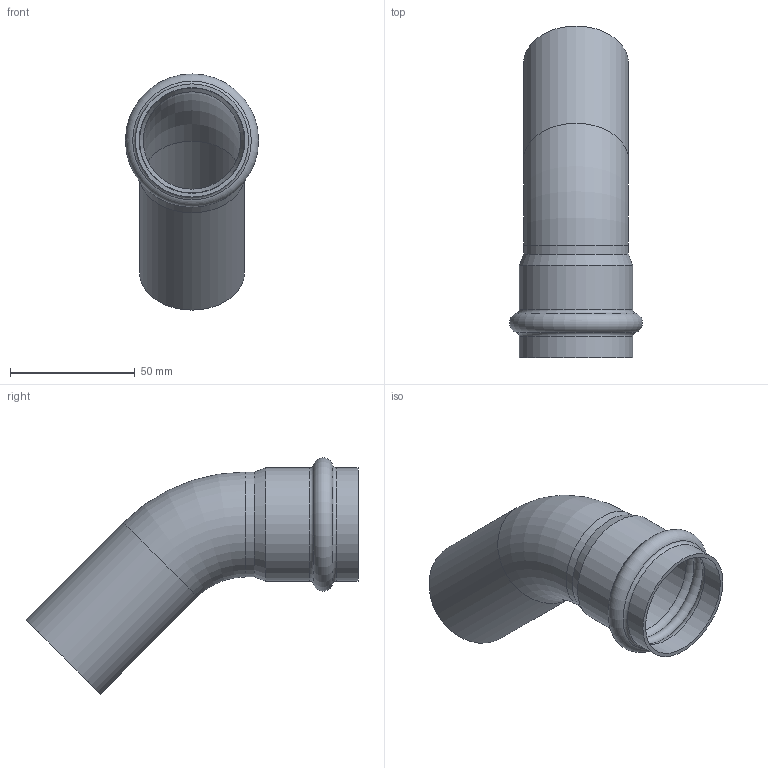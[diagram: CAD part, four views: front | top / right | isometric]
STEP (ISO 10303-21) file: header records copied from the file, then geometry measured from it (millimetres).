
FILE_DESCRIPTION(('STEP AP203'), '1');
FILE_NAME('覆.302661.014.000 捘 - VTi.958.I.004242', '', ('UNSPECIFIED'), ('UNSPECIFIED'), 'C3D Converter', 'C3D Toolkit', '');
FILE_SCHEMA(('CONFIG_CONTROL_DESIGN'));
Length unit declared in the file: millimetre
Products named in the file (1): ВР.302661.014.000 СБ
Bounding box: 53.29 x 132.88 x 94.53 mm (x, y, z)
Volume: 30145.9 mm3; surface area: 38130 mm2
Topology: 1 solids, 1 shells, 21 faces, 44 edges, 25 vertices
Faces by surface type: torus 9, cylinder 8, plane 2, cone 2
Full cylindrical faces by diameter (mm): 39 x2, 42 x2, 42.3 x2, 45.3 x2
Entity records: 508 total; most frequent: DIRECTION 94, CARTESIAN_POINT 72, ORIENTED_EDGE 50, AXIS2_PLACEMENT_3D 47, EDGE_LOOP 42, FACE_OUTER_BOUND 30, EDGE_CURVE 25, VERTEX_POINT 25
